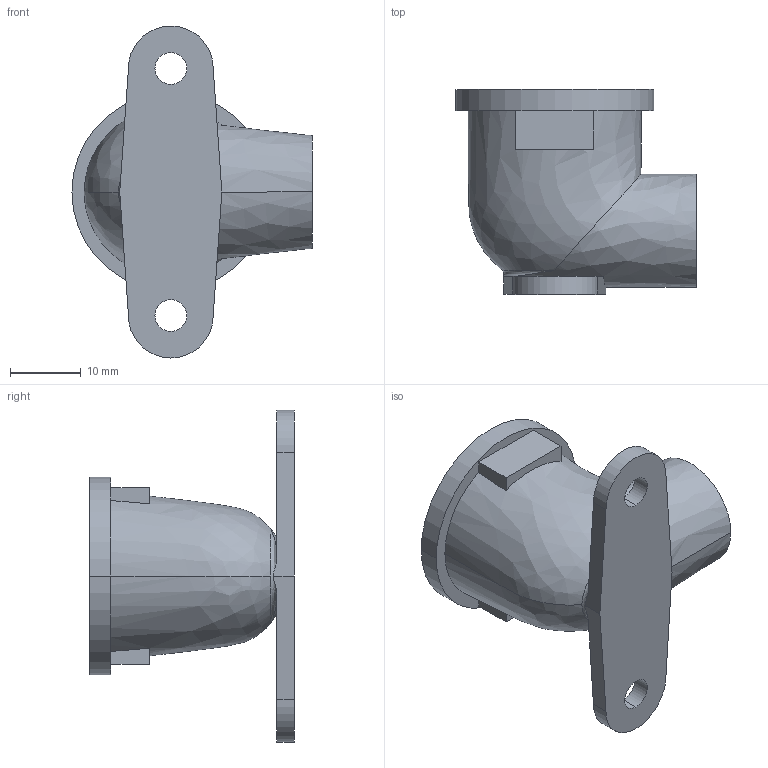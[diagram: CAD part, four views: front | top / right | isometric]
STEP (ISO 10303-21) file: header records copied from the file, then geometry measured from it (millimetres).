
FILE_DESCRIPTION (( 'STEP AP214' ), '1' );
FILE_NAME ('12x12.STEP', '2016-04-21T01:11:04', ( '微软用户' ), ( '微软中国' ), 'SwSTEP 2.0', 'SolidWorks 2008', '' );
FILE_SCHEMA (( 'AUTOMOTIVE_DESIGN' ));
Length unit declared in the file: millimetre
Products named in the file (1): 12x12
Bounding box: 34 x 29 x 47 mm (x, y, z)
Volume: 7403.1 mm3; surface area: 7068.8 mm2
Topology: 1 solids, 1 shells, 62 faces, 230 edges, 151 vertices
Faces by surface type: cylinder 23, plane 19, bspline 18, cone 2
Entity records: 6377 total; most frequent: CARTESIAN_POINT 4750, ORIENTED_EDGE 460, EDGE_CURVE 230, DIRECTION 181, VERTEX_POINT 151, B_SPLINE_CURVE_WITH_KNOTS 140, EDGE_LOOP 69, AXIS2_PLACEMENT_3D 69
